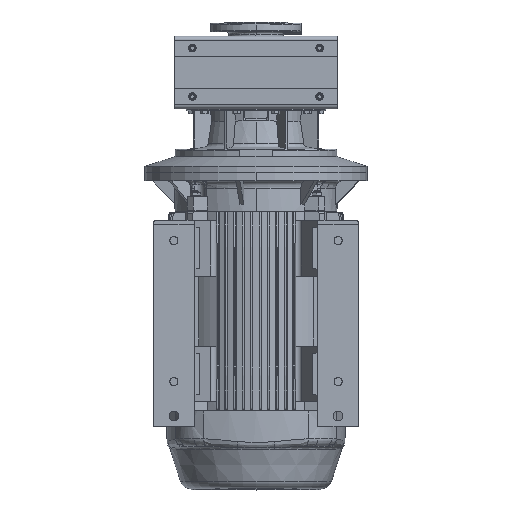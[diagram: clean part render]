
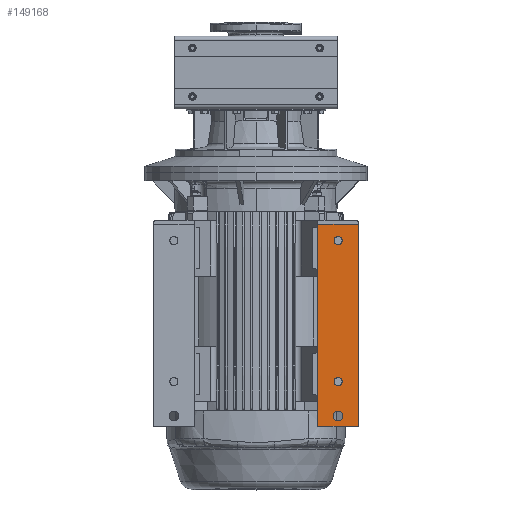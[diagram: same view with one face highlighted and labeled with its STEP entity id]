
A CAD part, top view. The second image highlights one B-rep face of the part: STEP entity #149168.
In plain terms, the highlighted planar face has unit normal (0, 0, 1).
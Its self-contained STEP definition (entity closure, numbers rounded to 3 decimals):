
#895 = EDGE_CURVE ( 'NONE', #124712, #38237, #14985, .T. ) ;
#1340 = EDGE_CURVE ( 'NONE', #83463, #15001, #101745, .T. ) ;
#3084 = VERTEX_POINT ( 'NONE', #54458 ) ;
#3759 = CARTESIAN_POINT ( 'NONE',  ( 153., -304., 280. ) ) ;
#3938 = DIRECTION ( 'NONE',  ( 0., -1., 0. ) ) ;
#5552 = EDGE_CURVE ( 'NONE', #38237, #124712, #90380, .T. ) ;
#6088 = VERTEX_POINT ( 'NONE', #137434 ) ;
#6555 = DIRECTION ( 'NONE',  ( -1., 0., 0. ) ) ;
#7908 = AXIS2_PLACEMENT_3D ( 'NONE', #127717, #19194, #104122 ) ;
#7947 = DIRECTION ( 'NONE',  ( 0., 0., 1. ) ) ;
#8474 = DIRECTION ( 'NONE',  ( 0., -1., 0. ) ) ;
#9450 = ORIENTED_EDGE ( 'NONE', *, *, #49397, .F. ) ;
#14985 = CIRCLE ( 'NONE', #123002, 10. ) ;
#15001 = VERTEX_POINT ( 'NONE', #106017 ) ;
#16334 = LINE ( 'NONE', #3759, #41164 ) ;
#16784 = CARTESIAN_POINT ( 'NONE',  ( 203., -344., 280. ) ) ;
#19194 = DIRECTION ( 'NONE',  ( 0., 0., 1. ) ) ;
#19983 = AXIS2_PLACEMENT_3D ( 'NONE', #48535, #94191, #36717 ) ;
#20261 = CARTESIAN_POINT ( 'NONE',  ( 203., -778., 280. ) ) ;
#20612 = FACE_OUTER_BOUND ( 'NONE', #49522, .T. ) ;
#21561 = EDGE_CURVE ( 'NONE', #116730, #140456, #151165, .T. ) ;
#22154 = FACE_BOUND ( 'NONE', #152688, .T. ) ;
#24408 = ORIENTED_EDGE ( 'NONE', *, *, #141360, .F. ) ;
#27028 = AXIS2_PLACEMENT_3D ( 'NONE', #33964, #129908, #70140 ) ;
#27715 = ORIENTED_EDGE ( 'NONE', *, *, #110973, .F. ) ;
#31631 = PLANE ( 'NONE',  #27028 ) ;
#33964 = CARTESIAN_POINT ( 'NONE',  ( 253., -304., 280. ) ) ;
#36569 = CARTESIAN_POINT ( 'NONE',  ( 253., -804., 280. ) ) ;
#36717 = DIRECTION ( 'NONE',  ( 0., -1., 0. ) ) ;
#38237 = VERTEX_POINT ( 'NONE', #86549 ) ;
#40263 = ORIENTED_EDGE ( 'NONE', *, *, #90929, .F. ) ;
#41164 = VECTOR ( 'NONE', #99695, 1000. ) ;
#42731 = DIRECTION ( 'NONE',  ( -1., 0., 0. ) ) ;
#43256 = ORIENTED_EDGE ( 'NONE', *, *, #5552, .F. ) ;
#43320 = CIRCLE ( 'NONE', #78478, 10. ) ;
#44879 = CARTESIAN_POINT ( 'NONE',  ( 203., -778., 280. ) ) ;
#45910 = CARTESIAN_POINT ( 'NONE',  ( 253., -304., 280. ) ) ;
#48535 = CARTESIAN_POINT ( 'NONE',  ( 203., -693., 280. ) ) ;
#49397 = EDGE_CURVE ( 'NONE', #83463, #54258, #119813, .T. ) ;
#49522 = EDGE_LOOP ( 'NONE', ( #115119, #40263, #9450, #139830 ) ) ;
#52952 = DIRECTION ( 'NONE',  ( 0., 1., 0. ) ) ;
#54258 = VERTEX_POINT ( 'NONE', #36569 ) ;
#54458 = CARTESIAN_POINT ( 'NONE',  ( 153., -804., 280. ) ) ;
#58344 = FACE_BOUND ( 'NONE', #123011, .T. ) ;
#63867 = VECTOR ( 'NONE', #42731, 1000. ) ;
#64768 = DIRECTION ( 'NONE',  ( 0., 0., 1. ) ) ;
#68261 = DIRECTION ( 'NONE',  ( 0., 0., 1. ) ) ;
#68614 = FACE_BOUND ( 'NONE', #79145, .T. ) ;
#68653 = AXIS2_PLACEMENT_3D ( 'NONE', #44879, #7947, #77983 ) ;
#70140 = DIRECTION ( 'NONE',  ( 0., -1., 0. ) ) ;
#71353 = CIRCLE ( 'NONE', #91434, 12. ) ;
#77983 = DIRECTION ( 'NONE',  ( 0., 1., 0. ) ) ;
#78478 = AXIS2_PLACEMENT_3D ( 'NONE', #16784, #64768, #52952 ) ;
#79145 = EDGE_LOOP ( 'NONE', ( #114477, #43256 ) ) ;
#83463 = VERTEX_POINT ( 'NONE', #148701 ) ;
#84005 = ORIENTED_EDGE ( 'NONE', *, *, #21561, .F. ) ;
#86549 = CARTESIAN_POINT ( 'NONE',  ( 203., -703., 280. ) ) ;
#88033 = CARTESIAN_POINT ( 'NONE',  ( 203., -683., 280. ) ) ;
#90380 = CIRCLE ( 'NONE', #19983, 10. ) ;
#90929 = EDGE_CURVE ( 'NONE', #54258, #3084, #127655, .T. ) ;
#91434 = AXIS2_PLACEMENT_3D ( 'NONE', #20261, #68261, #8474 ) ;
#92254 = CARTESIAN_POINT ( 'NONE',  ( 253., -804., 280. ) ) ;
#93898 = VECTOR ( 'NONE', #3938, 1000. ) ;
#93957 = CARTESIAN_POINT ( 'NONE',  ( 203., -766., 280. ) ) ;
#94191 = DIRECTION ( 'NONE',  ( 0., 0., 1. ) ) ;
#99695 = DIRECTION ( 'NONE',  ( 0., -1., 0. ) ) ;
#101745 = LINE ( 'NONE', #126926, #63867 ) ;
#104122 = DIRECTION ( 'NONE',  ( 0., -1., 0. ) ) ;
#106017 = CARTESIAN_POINT ( 'NONE',  ( 153., -304., 280. ) ) ;
#110973 = EDGE_CURVE ( 'NONE', #140456, #116730, #43320, .T. ) ;
#113724 = CARTESIAN_POINT ( 'NONE',  ( 203., -693., 280. ) ) ;
#114477 = ORIENTED_EDGE ( 'NONE', *, *, #895, .F. ) ;
#114517 = DIRECTION ( 'NONE',  ( 0., 0., 1. ) ) ;
#115119 = ORIENTED_EDGE ( 'NONE', *, *, #133176, .T. ) ;
#116730 = VERTEX_POINT ( 'NONE', #134319 ) ;
#119813 = LINE ( 'NONE', #45910, #93898 ) ;
#123002 = AXIS2_PLACEMENT_3D ( 'NONE', #113724, #114517, #140446 ) ;
#123011 = EDGE_LOOP ( 'NONE', ( #27715, #84005 ) ) ;
#124712 = VERTEX_POINT ( 'NONE', #88033 ) ;
#126926 = CARTESIAN_POINT ( 'NONE',  ( 253., -304., 280. ) ) ;
#127655 = LINE ( 'NONE', #92254, #131726 ) ;
#127717 = CARTESIAN_POINT ( 'NONE',  ( 203., -344., 280. ) ) ;
#128926 = CIRCLE ( 'NONE', #68653, 12. ) ;
#129908 = DIRECTION ( 'NONE',  ( 0., 0., 1. ) ) ;
#131726 = VECTOR ( 'NONE', #6555, 1000. ) ;
#133176 = EDGE_CURVE ( 'NONE', #15001, #3084, #16334, .T. ) ;
#134319 = CARTESIAN_POINT ( 'NONE',  ( 203., -354., 280. ) ) ;
#137434 = CARTESIAN_POINT ( 'NONE',  ( 203., -790., 280. ) ) ;
#138851 = CARTESIAN_POINT ( 'NONE',  ( 203., -334., 280. ) ) ;
#139830 = ORIENTED_EDGE ( 'NONE', *, *, #1340, .T. ) ;
#139992 = EDGE_CURVE ( 'NONE', #149979, #6088, #128926, .T. ) ;
#140446 = DIRECTION ( 'NONE',  ( 0., 1., 0. ) ) ;
#140456 = VERTEX_POINT ( 'NONE', #138851 ) ;
#141360 = EDGE_CURVE ( 'NONE', #6088, #149979, #71353, .T. ) ;
#148701 = CARTESIAN_POINT ( 'NONE',  ( 253., -304., 280. ) ) ;
#149168 = ADVANCED_FACE ( 'NONE', ( #20612, #58344, #68614, #22154 ), #31631, .T. ) ;
#149979 = VERTEX_POINT ( 'NONE', #93957 ) ;
#151165 = CIRCLE ( 'NONE', #7908, 10. ) ;
#152688 = EDGE_LOOP ( 'NONE', ( #154865, #24408 ) ) ;
#154865 = ORIENTED_EDGE ( 'NONE', *, *, #139992, .F. ) ;
